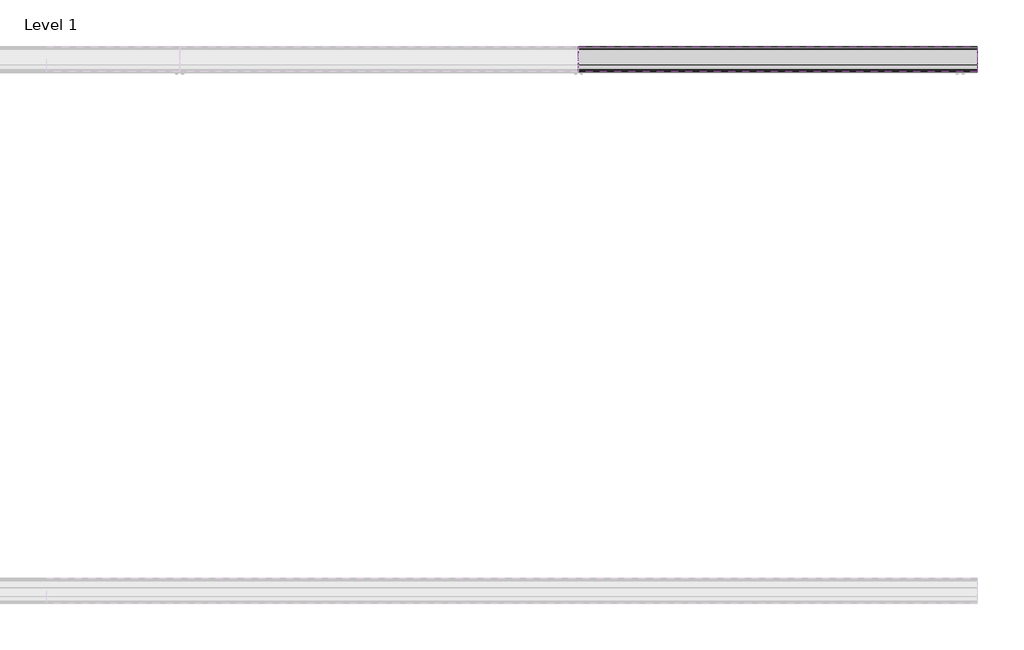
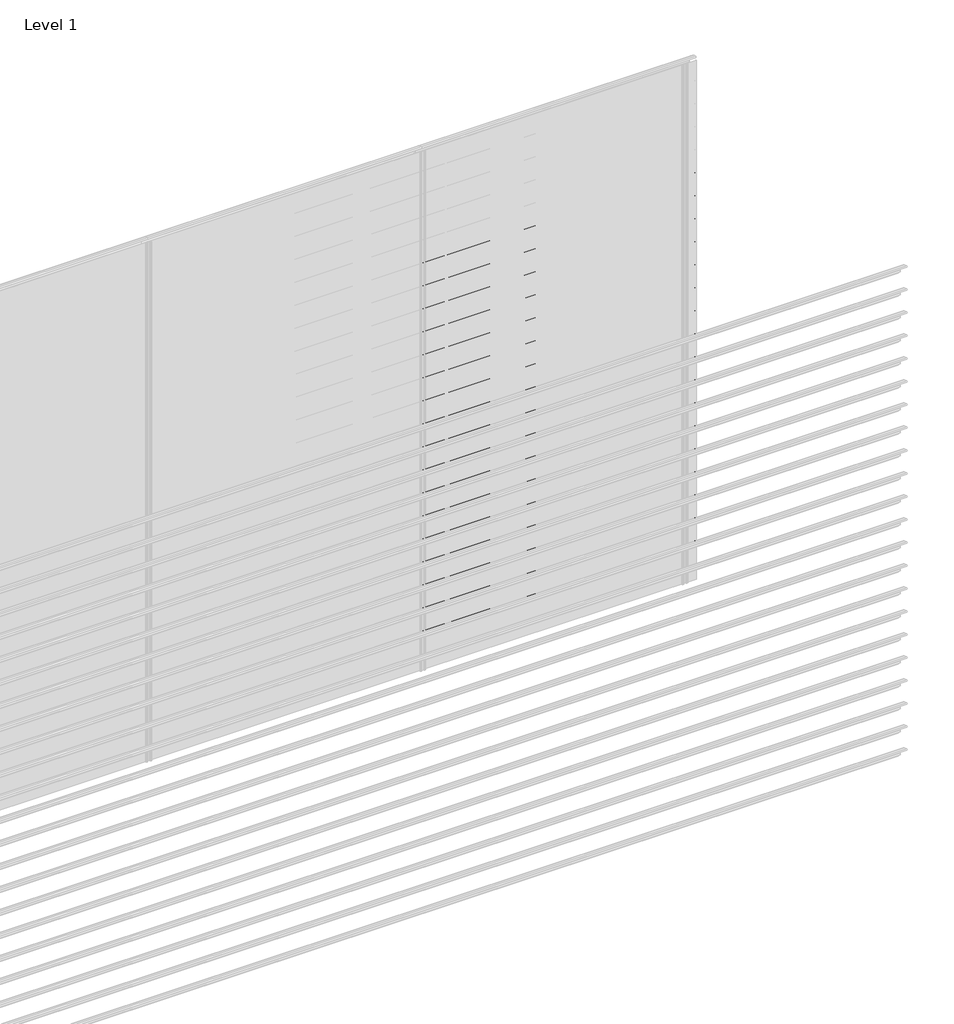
# One storey, part 57 of 57: 17 proxies.
"""IFC4 building model written with IfcOpenShell, lengths in millimetres."""

from ifc_helpers import new_model, si_unit, point, frame, frame_2d, origin, place, context, project, spatial, polyline, circle_curve, trimmed, segment, composite_curve, outline, extrude, element, save

model = new_model("IFC4")

# Units and contexts
model_context = context("Model", 3, world=origin())
ifc_project = project(units=[si_unit("LENGTHUNIT", "METRE", prefix="MILLI")], contexts=[model_context])

# Site, building, storey
site = spatial("IfcSite", under=ifc_project)
building = spatial("IfcBuilding", under=site)
storey = spatial("IfcBuildingStorey", under=building, Name="Level 1", Elevation=0.0)

# Proxies
placement = place(None, origin())
element("IfcBuildingElementProxy", 1, Name="Wall Sweeps", at=placement, inside=storey, context=model_context, shape_type="SweptSolid", body=[
    extrude(outline(composite_curve([segment(trimmed(circle_curve(frame_2d((6.2177474, 2351.4913792)), 4.2177474), [point((10.3014394, 2352.5462976))], [point((6.2177474, 2355.7091266))], False, "CARTESIAN"), True, "CONTINUOUS"), segment(trimmed(circle_curve(frame_2d((-18.7150834, 2253.2536312)), 105.4456002), [point((6.2177474, 2355.7091266))], [point((28.2085702, 2347.6832099))], False, "CARTESIAN"), True, "CONTINUOUS"), segment(trimmed(circle_curve(frame_2d((-61.7199745, 2199.0352476)), 173.7335887), [point((28.2085702, 2347.6832099))], [point((86.9279879, 2288.9637922))], False, "CARTESIAN"), True, "CONTINUOUS"), segment(trimmed(circle_curve(frame_2d((-4.9297178, 2237.1860314)), 105.4456002), [point((86.9279879, 2288.9637922))], [point((96.3750384, 2266.4455765))], False, "CARTESIAN"), True, "CONTINUOUS"), segment(trimmed(circle_curve(frame_2d((92.190263, 2265.3307305)), 4.3307305), [point((96.3750384, 2266.4455765))], [point((90.9230804, 2261.189538))], False, "CARTESIAN"), True, "CONTINUOUS"), segment(polyline([(90.9230804, 2261.189538), (65.2598016, 2285.9722783)]), True, "CONTINUOUS"), segment(trimmed(circle_curve(frame_2d((68.6120426, 2288.2977626)), 4.079877), [point((65.2598016, 2285.9722783))], [point((69.2689403, 2292.3244091))], False, "CARTESIAN"), True, "CONTINUOUS"), segment(trimmed(circle_curve(frame_2d((-14.6665585, 2270.2544323)), 86.7885467), [point((69.2689403, 2292.3244091))], [point((57.6971649, 2318.1683485))], True, "CARTESIAN"), True, "CONTINUOUS"), segment(polyline([(57.6971649, 2318.1683485), (59.2769901, 2320.9046861)]), True, "CONTINUOUS"), segment(trimmed(circle_curve(frame_2d((-61.7199745, 2199.0352476)), 171.7335887), [point((59.2769901, 2320.9046861))], [point((27.2444128, 2345.9289618))], True, "CARTESIAN"), True, "CONTINUOUS"), segment(trimmed(circle_curve(frame_2d((-18.7150834, 2253.2536312)), 103.4456002), [point((27.2444128, 2345.9289618))], [point((10.3014394, 2352.5462976))], True, "CARTESIAN"), True, "CONTINUOUS")], self_intersect=False)), frame((4500.0, 0.0, 0.0), z_axis=(1.0, 0.0, 0.0), x_axis=(0.0, 1.0, 0.0)), (0.0, 0.0, 1.0), 1500.0),
])
element("IfcBuildingElementProxy", 2, Name="Wall Sweeps", at=placement, inside=storey, context=model_context, shape_type="SweptSolid", body=[
    extrude(outline(composite_curve([segment(trimmed(circle_curve(frame_2d((6.2177474, 2218.4913792)), 4.2177474), [point((10.3014394, 2219.5462976))], [point((6.2177474, 2222.7091266))], False, "CARTESIAN"), True, "CONTINUOUS"), segment(trimmed(circle_curve(frame_2d((-18.7150834, 2120.2536312)), 105.4456002), [point((6.2177474, 2222.7091266))], [point((28.2085702, 2214.6832099))], False, "CARTESIAN"), True, "CONTINUOUS"), segment(trimmed(circle_curve(frame_2d((-61.7199745, 2066.0352476)), 173.7335887), [point((28.2085702, 2214.6832099))], [point((86.9279879, 2155.9637922))], False, "CARTESIAN"), True, "CONTINUOUS"), segment(trimmed(circle_curve(frame_2d((-4.9297178, 2104.1860314)), 105.4456002), [point((86.9279879, 2155.9637922))], [point((96.3750384, 2133.4455765))], False, "CARTESIAN"), True, "CONTINUOUS"), segment(trimmed(circle_curve(frame_2d((92.190263, 2132.3307305)), 4.3307305), [point((96.3750384, 2133.4455765))], [point((90.9230804, 2128.189538))], False, "CARTESIAN"), True, "CONTINUOUS"), segment(polyline([(90.9230804, 2128.189538), (65.2598016, 2152.9722783)]), True, "CONTINUOUS"), segment(trimmed(circle_curve(frame_2d((68.6120426, 2155.2977626)), 4.079877), [point((65.2598016, 2152.9722783))], [point((69.2689403, 2159.3244091))], False, "CARTESIAN"), True, "CONTINUOUS"), segment(trimmed(circle_curve(frame_2d((-14.6665585, 2137.2544323)), 86.7885467), [point((69.2689403, 2159.3244091))], [point((57.6971649, 2185.1683485))], True, "CARTESIAN"), True, "CONTINUOUS"), segment(polyline([(57.6971649, 2185.1683485), (59.2769901, 2187.9046861)]), True, "CONTINUOUS"), segment(trimmed(circle_curve(frame_2d((-61.7199745, 2066.0352476)), 171.7335887), [point((59.2769901, 2187.9046861))], [point((27.2444128, 2212.9289618))], True, "CARTESIAN"), True, "CONTINUOUS"), segment(trimmed(circle_curve(frame_2d((-18.7150834, 2120.2536312)), 103.4456002), [point((27.2444128, 2212.9289618))], [point((10.3014394, 2219.5462976))], True, "CARTESIAN"), True, "CONTINUOUS")], self_intersect=False)), frame((4500.0, 0.0, 0.0), z_axis=(1.0, 0.0, 0.0), x_axis=(0.0, 1.0, 0.0)), (0.0, 0.0, 1.0), 1500.0),
])
element("IfcBuildingElementProxy", 3, Name="Wall Sweeps", at=placement, inside=storey, context=model_context, shape_type="SweptSolid", body=[
    extrude(outline(composite_curve([segment(trimmed(circle_curve(frame_2d((6.2177474, 2085.4913792)), 4.2177474), [point((10.3014394, 2086.5462976))], [point((6.2177474, 2089.7091266))], False, "CARTESIAN"), True, "CONTINUOUS"), segment(trimmed(circle_curve(frame_2d((-18.7150834, 1987.2536312)), 105.4456002), [point((6.2177474, 2089.7091266))], [point((28.2085702, 2081.6832099))], False, "CARTESIAN"), True, "CONTINUOUS"), segment(trimmed(circle_curve(frame_2d((-61.7199745, 1933.0352476)), 173.7335887), [point((28.2085702, 2081.6832099))], [point((86.9279879, 2022.9637922))], False, "CARTESIAN"), True, "CONTINUOUS"), segment(trimmed(circle_curve(frame_2d((-4.9297178, 1971.1860314)), 105.4456002), [point((86.9279879, 2022.9637922))], [point((96.3750384, 2000.4455765))], False, "CARTESIAN"), True, "CONTINUOUS"), segment(trimmed(circle_curve(frame_2d((92.190263, 1999.3307305)), 4.3307305), [point((96.3750384, 2000.4455765))], [point((90.9230804, 1995.189538))], False, "CARTESIAN"), True, "CONTINUOUS"), segment(polyline([(90.9230804, 1995.189538), (65.2598016, 2019.9722783)]), True, "CONTINUOUS"), segment(trimmed(circle_curve(frame_2d((68.6120426, 2022.2977626)), 4.079877), [point((65.2598016, 2019.9722783))], [point((69.2689403, 2026.3244091))], False, "CARTESIAN"), True, "CONTINUOUS"), segment(trimmed(circle_curve(frame_2d((-14.6665585, 2004.2544323)), 86.7885467), [point((69.2689403, 2026.3244091))], [point((57.6971649, 2052.1683485))], True, "CARTESIAN"), True, "CONTINUOUS"), segment(polyline([(57.6971649, 2052.1683485), (59.2769901, 2054.9046861)]), True, "CONTINUOUS"), segment(trimmed(circle_curve(frame_2d((-61.7199745, 1933.0352476)), 171.7335887), [point((59.2769901, 2054.9046861))], [point((27.2444128, 2079.9289618))], True, "CARTESIAN"), True, "CONTINUOUS"), segment(trimmed(circle_curve(frame_2d((-18.7150834, 1987.2536312)), 103.4456002), [point((27.2444128, 2079.9289618))], [point((10.3014394, 2086.5462976))], True, "CARTESIAN"), True, "CONTINUOUS")], self_intersect=False)), frame((4500.0, 0.0, 0.0), z_axis=(1.0, 0.0, 0.0), x_axis=(0.0, 1.0, 0.0)), (0.0, 0.0, 1.0), 1500.0),
])
element("IfcBuildingElementProxy", 4, Name="Wall Sweeps", at=placement, inside=storey, context=model_context, shape_type="SweptSolid", body=[
    extrude(outline(composite_curve([segment(trimmed(circle_curve(frame_2d((6.2177474, 1952.4913792)), 4.2177474), [point((10.3014394, 1953.5462976))], [point((6.2177474, 1956.7091266))], False, "CARTESIAN"), True, "CONTINUOUS"), segment(trimmed(circle_curve(frame_2d((-18.7150834, 1854.2536312)), 105.4456002), [point((6.2177474, 1956.7091266))], [point((28.2085702, 1948.6832099))], False, "CARTESIAN"), True, "CONTINUOUS"), segment(trimmed(circle_curve(frame_2d((-61.7199745, 1800.0352476)), 173.7335887), [point((28.2085702, 1948.6832099))], [point((86.9279879, 1889.9637922))], False, "CARTESIAN"), True, "CONTINUOUS"), segment(trimmed(circle_curve(frame_2d((-4.9297178, 1838.1860314)), 105.4456002), [point((86.9279879, 1889.9637922))], [point((96.3750384, 1867.4455765))], False, "CARTESIAN"), True, "CONTINUOUS"), segment(trimmed(circle_curve(frame_2d((92.190263, 1866.3307305)), 4.3307305), [point((96.3750384, 1867.4455765))], [point((90.9230804, 1862.189538))], False, "CARTESIAN"), True, "CONTINUOUS"), segment(polyline([(90.9230804, 1862.189538), (65.2598016, 1886.9722783)]), True, "CONTINUOUS"), segment(trimmed(circle_curve(frame_2d((68.6120426, 1889.2977626)), 4.079877), [point((65.2598016, 1886.9722783))], [point((69.2689403, 1893.3244091))], False, "CARTESIAN"), True, "CONTINUOUS"), segment(trimmed(circle_curve(frame_2d((-14.6665585, 1871.2544323)), 86.7885467), [point((69.2689403, 1893.3244091))], [point((57.6971649, 1919.1683485))], True, "CARTESIAN"), True, "CONTINUOUS"), segment(polyline([(57.6971649, 1919.1683485), (59.2769901, 1921.9046861)]), True, "CONTINUOUS"), segment(trimmed(circle_curve(frame_2d((-61.7199745, 1800.0352476)), 171.7335887), [point((59.2769901, 1921.9046861))], [point((27.2444128, 1946.9289618))], True, "CARTESIAN"), True, "CONTINUOUS"), segment(trimmed(circle_curve(frame_2d((-18.7150834, 1854.2536312)), 103.4456002), [point((27.2444128, 1946.9289618))], [point((10.3014394, 1953.5462976))], True, "CARTESIAN"), True, "CONTINUOUS")], self_intersect=False)), frame((4500.0, 0.0, 0.0), z_axis=(1.0, 0.0, 0.0), x_axis=(0.0, 1.0, 0.0)), (0.0, 0.0, 1.0), 1500.0),
])
element("IfcBuildingElementProxy", 5, Name="Wall Sweeps", at=placement, inside=storey, context=model_context, shape_type="SweptSolid", body=[
    extrude(outline(composite_curve([segment(trimmed(circle_curve(frame_2d((6.2177474, 1819.4913792)), 4.2177474), [point((10.3014394, 1820.5462976))], [point((6.2177474, 1823.7091266))], False, "CARTESIAN"), True, "CONTINUOUS"), segment(trimmed(circle_curve(frame_2d((-18.7150834, 1721.2536312)), 105.4456002), [point((6.2177474, 1823.7091266))], [point((28.2085702, 1815.6832099))], False, "CARTESIAN"), True, "CONTINUOUS"), segment(trimmed(circle_curve(frame_2d((-61.7199745, 1667.0352476)), 173.7335887), [point((28.2085702, 1815.6832099))], [point((86.9279879, 1756.9637922))], False, "CARTESIAN"), True, "CONTINUOUS"), segment(trimmed(circle_curve(frame_2d((-4.9297178, 1705.1860314)), 105.4456002), [point((86.9279879, 1756.9637922))], [point((96.3750384, 1734.4455765))], False, "CARTESIAN"), True, "CONTINUOUS"), segment(trimmed(circle_curve(frame_2d((92.190263, 1733.3307305)), 4.3307305), [point((96.3750384, 1734.4455765))], [point((90.9230804, 1729.189538))], False, "CARTESIAN"), True, "CONTINUOUS"), segment(polyline([(90.9230804, 1729.189538), (65.2598016, 1753.9722783)]), True, "CONTINUOUS"), segment(trimmed(circle_curve(frame_2d((68.6120426, 1756.2977626)), 4.079877), [point((65.2598016, 1753.9722783))], [point((69.2689403, 1760.3244091))], False, "CARTESIAN"), True, "CONTINUOUS"), segment(trimmed(circle_curve(frame_2d((-14.6665585, 1738.2544323)), 86.7885467), [point((69.2689403, 1760.3244091))], [point((57.6971649, 1786.1683485))], True, "CARTESIAN"), True, "CONTINUOUS"), segment(polyline([(57.6971649, 1786.1683485), (59.2769901, 1788.9046861)]), True, "CONTINUOUS"), segment(trimmed(circle_curve(frame_2d((-61.7199745, 1667.0352476)), 171.7335887), [point((59.2769901, 1788.9046861))], [point((27.2444128, 1813.9289618))], True, "CARTESIAN"), True, "CONTINUOUS"), segment(trimmed(circle_curve(frame_2d((-18.7150834, 1721.2536312)), 103.4456002), [point((27.2444128, 1813.9289618))], [point((10.3014394, 1820.5462976))], True, "CARTESIAN"), True, "CONTINUOUS")], self_intersect=False)), frame((4500.0, 0.0, 0.0), z_axis=(1.0, 0.0, 0.0), x_axis=(0.0, 1.0, 0.0)), (0.0, 0.0, 1.0), 1500.0),
])
element("IfcBuildingElementProxy", 6, Name="Wall Sweeps", at=placement, inside=storey, context=model_context, shape_type="SweptSolid", body=[
    extrude(outline(composite_curve([segment(trimmed(circle_curve(frame_2d((6.2177474, 1686.4913792)), 4.2177474), [point((10.3014394, 1687.5462976))], [point((6.2177474, 1690.7091266))], False, "CARTESIAN"), True, "CONTINUOUS"), segment(trimmed(circle_curve(frame_2d((-18.7150834, 1588.2536312)), 105.4456002), [point((6.2177474, 1690.7091266))], [point((28.2085702, 1682.6832099))], False, "CARTESIAN"), True, "CONTINUOUS"), segment(trimmed(circle_curve(frame_2d((-61.7199745, 1534.0352476)), 173.7335887), [point((28.2085702, 1682.6832099))], [point((86.9279879, 1623.9637922))], False, "CARTESIAN"), True, "CONTINUOUS"), segment(trimmed(circle_curve(frame_2d((-4.9297178, 1572.1860314)), 105.4456002), [point((86.9279879, 1623.9637922))], [point((96.3750384, 1601.4455765))], False, "CARTESIAN"), True, "CONTINUOUS"), segment(trimmed(circle_curve(frame_2d((92.190263, 1600.3307305)), 4.3307305), [point((96.3750384, 1601.4455765))], [point((90.9230804, 1596.189538))], False, "CARTESIAN"), True, "CONTINUOUS"), segment(polyline([(90.9230804, 1596.189538), (65.2598016, 1620.9722783)]), True, "CONTINUOUS"), segment(trimmed(circle_curve(frame_2d((68.6120426, 1623.2977626)), 4.079877), [point((65.2598016, 1620.9722783))], [point((69.2689403, 1627.3244091))], False, "CARTESIAN"), True, "CONTINUOUS"), segment(trimmed(circle_curve(frame_2d((-14.6665585, 1605.2544323)), 86.7885467), [point((69.2689403, 1627.3244091))], [point((57.6971649, 1653.1683485))], True, "CARTESIAN"), True, "CONTINUOUS"), segment(polyline([(57.6971649, 1653.1683485), (59.2769901, 1655.9046861)]), True, "CONTINUOUS"), segment(trimmed(circle_curve(frame_2d((-61.7199745, 1534.0352476)), 171.7335887), [point((59.2769901, 1655.9046861))], [point((27.2444128, 1680.9289618))], True, "CARTESIAN"), True, "CONTINUOUS"), segment(trimmed(circle_curve(frame_2d((-18.7150834, 1588.2536312)), 103.4456002), [point((27.2444128, 1680.9289618))], [point((10.3014394, 1687.5462976))], True, "CARTESIAN"), True, "CONTINUOUS")], self_intersect=False)), frame((4500.0, 0.0, 0.0), z_axis=(1.0, 0.0, 0.0), x_axis=(0.0, 1.0, 0.0)), (0.0, 0.0, 1.0), 1500.0),
])
element("IfcBuildingElementProxy", 7, Name="Wall Sweeps", at=placement, inside=storey, context=model_context, shape_type="SweptSolid", body=[
    extrude(outline(composite_curve([segment(trimmed(circle_curve(frame_2d((6.2177474, 1553.4913792)), 4.2177474), [point((10.3014394, 1554.5462976))], [point((6.2177474, 1557.7091266))], False, "CARTESIAN"), True, "CONTINUOUS"), segment(trimmed(circle_curve(frame_2d((-18.7150834, 1455.2536312)), 105.4456002), [point((6.2177474, 1557.7091266))], [point((28.2085702, 1549.6832099))], False, "CARTESIAN"), True, "CONTINUOUS"), segment(trimmed(circle_curve(frame_2d((-61.7199745, 1401.0352476)), 173.7335887), [point((28.2085702, 1549.6832099))], [point((86.9279879, 1490.9637922))], False, "CARTESIAN"), True, "CONTINUOUS"), segment(trimmed(circle_curve(frame_2d((-4.9297178, 1439.1860314)), 105.4456002), [point((86.9279879, 1490.9637922))], [point((96.3750384, 1468.4455765))], False, "CARTESIAN"), True, "CONTINUOUS"), segment(trimmed(circle_curve(frame_2d((92.190263, 1467.3307305)), 4.3307305), [point((96.3750384, 1468.4455765))], [point((90.9230804, 1463.189538))], False, "CARTESIAN"), True, "CONTINUOUS"), segment(polyline([(90.9230804, 1463.189538), (65.2598016, 1487.9722783)]), True, "CONTINUOUS"), segment(trimmed(circle_curve(frame_2d((68.6120426, 1490.2977626)), 4.079877), [point((65.2598016, 1487.9722783))], [point((69.2689403, 1494.3244091))], False, "CARTESIAN"), True, "CONTINUOUS"), segment(trimmed(circle_curve(frame_2d((-14.6665585, 1472.2544323)), 86.7885467), [point((69.2689403, 1494.3244091))], [point((57.6971649, 1520.1683485))], True, "CARTESIAN"), True, "CONTINUOUS"), segment(polyline([(57.6971649, 1520.1683485), (59.2769901, 1522.9046861)]), True, "CONTINUOUS"), segment(trimmed(circle_curve(frame_2d((-61.7199745, 1401.0352476)), 171.7335887), [point((59.2769901, 1522.9046861))], [point((27.2444128, 1547.9289618))], True, "CARTESIAN"), True, "CONTINUOUS"), segment(trimmed(circle_curve(frame_2d((-18.7150834, 1455.2536312)), 103.4456002), [point((27.2444128, 1547.9289618))], [point((10.3014394, 1554.5462976))], True, "CARTESIAN"), True, "CONTINUOUS")], self_intersect=False)), frame((4500.0, 0.0, 0.0), z_axis=(1.0, 0.0, 0.0), x_axis=(0.0, 1.0, 0.0)), (0.0, 0.0, 1.0), 1500.0),
])
element("IfcBuildingElementProxy", 8, Name="Wall Sweeps", at=placement, inside=storey, context=model_context, shape_type="SweptSolid", body=[
    extrude(outline(composite_curve([segment(trimmed(circle_curve(frame_2d((6.2177474, 1420.4913792)), 4.2177474), [point((10.3014394, 1421.5462976))], [point((6.2177474, 1424.7091266))], False, "CARTESIAN"), True, "CONTINUOUS"), segment(trimmed(circle_curve(frame_2d((-18.7150834, 1322.2536312)), 105.4456002), [point((6.2177474, 1424.7091266))], [point((28.2085702, 1416.6832099))], False, "CARTESIAN"), True, "CONTINUOUS"), segment(trimmed(circle_curve(frame_2d((-61.7199745, 1268.0352476)), 173.7335887), [point((28.2085702, 1416.6832099))], [point((86.9279879, 1357.9637922))], False, "CARTESIAN"), True, "CONTINUOUS"), segment(trimmed(circle_curve(frame_2d((-4.9297178, 1306.1860314)), 105.4456002), [point((86.9279879, 1357.9637922))], [point((96.3750384, 1335.4455765))], False, "CARTESIAN"), True, "CONTINUOUS"), segment(trimmed(circle_curve(frame_2d((92.190263, 1334.3307305)), 4.3307305), [point((96.3750384, 1335.4455765))], [point((90.9230804, 1330.189538))], False, "CARTESIAN"), True, "CONTINUOUS"), segment(polyline([(90.9230804, 1330.189538), (65.2598016, 1354.9722783)]), True, "CONTINUOUS"), segment(trimmed(circle_curve(frame_2d((68.6120426, 1357.2977626)), 4.079877), [point((65.2598016, 1354.9722783))], [point((69.2689403, 1361.3244091))], False, "CARTESIAN"), True, "CONTINUOUS"), segment(trimmed(circle_curve(frame_2d((-14.6665585, 1339.2544323)), 86.7885467), [point((69.2689403, 1361.3244091))], [point((57.6971649, 1387.1683485))], True, "CARTESIAN"), True, "CONTINUOUS"), segment(polyline([(57.6971649, 1387.1683485), (59.2769901, 1389.9046861)]), True, "CONTINUOUS"), segment(trimmed(circle_curve(frame_2d((-61.7199745, 1268.0352476)), 171.7335887), [point((59.2769901, 1389.9046861))], [point((27.2444128, 1414.9289618))], True, "CARTESIAN"), True, "CONTINUOUS"), segment(trimmed(circle_curve(frame_2d((-18.7150834, 1322.2536312)), 103.4456002), [point((27.2444128, 1414.9289618))], [point((10.3014394, 1421.5462976))], True, "CARTESIAN"), True, "CONTINUOUS")], self_intersect=False)), frame((4500.0, 0.0, 0.0), z_axis=(1.0, 0.0, 0.0), x_axis=(0.0, 1.0, 0.0)), (0.0, 0.0, 1.0), 1500.0),
])
element("IfcBuildingElementProxy", 9, Name="Wall Sweeps", at=placement, inside=storey, context=model_context, shape_type="SweptSolid", body=[
    extrude(outline(composite_curve([segment(trimmed(circle_curve(frame_2d((6.2177474, 1287.4913792)), 4.2177474), [point((10.3014394, 1288.5462976))], [point((6.2177474, 1291.7091266))], False, "CARTESIAN"), True, "CONTINUOUS"), segment(trimmed(circle_curve(frame_2d((-18.7150834, 1189.2536312)), 105.4456002), [point((6.2177474, 1291.7091266))], [point((28.2085702, 1283.6832099))], False, "CARTESIAN"), True, "CONTINUOUS"), segment(trimmed(circle_curve(frame_2d((-61.7199745, 1135.0352476)), 173.7335887), [point((28.2085702, 1283.6832099))], [point((86.9279879, 1224.9637922))], False, "CARTESIAN"), True, "CONTINUOUS"), segment(trimmed(circle_curve(frame_2d((-4.9297178, 1173.1860314)), 105.4456002), [point((86.9279879, 1224.9637922))], [point((96.3750384, 1202.4455765))], False, "CARTESIAN"), True, "CONTINUOUS"), segment(trimmed(circle_curve(frame_2d((92.190263, 1201.3307305)), 4.3307305), [point((96.3750384, 1202.4455765))], [point((90.9230804, 1197.189538))], False, "CARTESIAN"), True, "CONTINUOUS"), segment(polyline([(90.9230804, 1197.189538), (65.2598016, 1221.9722783)]), True, "CONTINUOUS"), segment(trimmed(circle_curve(frame_2d((68.6120426, 1224.2977626)), 4.079877), [point((65.2598016, 1221.9722783))], [point((69.2689403, 1228.3244091))], False, "CARTESIAN"), True, "CONTINUOUS"), segment(trimmed(circle_curve(frame_2d((-14.6665585, 1206.2544323)), 86.7885467), [point((69.2689403, 1228.3244091))], [point((57.6971649, 1254.1683485))], True, "CARTESIAN"), True, "CONTINUOUS"), segment(polyline([(57.6971649, 1254.1683485), (59.2769901, 1256.9046861)]), True, "CONTINUOUS"), segment(trimmed(circle_curve(frame_2d((-61.7199745, 1135.0352476)), 171.7335887), [point((59.2769901, 1256.9046861))], [point((27.2444128, 1281.9289618))], True, "CARTESIAN"), True, "CONTINUOUS"), segment(trimmed(circle_curve(frame_2d((-18.7150834, 1189.2536312)), 103.4456002), [point((27.2444128, 1281.9289618))], [point((10.3014394, 1288.5462976))], True, "CARTESIAN"), True, "CONTINUOUS")], self_intersect=False)), frame((4500.0, 0.0, 0.0), z_axis=(1.0, 0.0, 0.0), x_axis=(0.0, 1.0, 0.0)), (0.0, 0.0, 1.0), 1500.0),
])
element("IfcBuildingElementProxy", 10, Name="Wall Sweeps", at=placement, inside=storey, context=model_context, shape_type="SweptSolid", body=[
    extrude(outline(composite_curve([segment(trimmed(circle_curve(frame_2d((6.2177474, 1154.4913792)), 4.2177474), [point((10.3014394, 1155.5462976))], [point((6.2177474, 1158.7091266))], False, "CARTESIAN"), True, "CONTINUOUS"), segment(trimmed(circle_curve(frame_2d((-18.7150834, 1056.2536312)), 105.4456002), [point((6.2177474, 1158.7091266))], [point((28.2085702, 1150.6832099))], False, "CARTESIAN"), True, "CONTINUOUS"), segment(trimmed(circle_curve(frame_2d((-61.7199745, 1002.0352476)), 173.7335887), [point((28.2085702, 1150.6832099))], [point((86.9279879, 1091.9637922))], False, "CARTESIAN"), True, "CONTINUOUS"), segment(trimmed(circle_curve(frame_2d((-4.9297178, 1040.1860314)), 105.4456002), [point((86.9279879, 1091.9637922))], [point((96.3750384, 1069.4455765))], False, "CARTESIAN"), True, "CONTINUOUS"), segment(trimmed(circle_curve(frame_2d((92.190263, 1068.3307305)), 4.3307305), [point((96.3750384, 1069.4455765))], [point((90.9230804, 1064.189538))], False, "CARTESIAN"), True, "CONTINUOUS"), segment(polyline([(90.9230804, 1064.189538), (65.2598016, 1088.9722783)]), True, "CONTINUOUS"), segment(trimmed(circle_curve(frame_2d((68.6120426, 1091.2977626)), 4.079877), [point((65.2598016, 1088.9722783))], [point((69.2689403, 1095.3244091))], False, "CARTESIAN"), True, "CONTINUOUS"), segment(trimmed(circle_curve(frame_2d((-14.6665585, 1073.2544323)), 86.7885467), [point((69.2689403, 1095.3244091))], [point((57.6971649, 1121.1683485))], True, "CARTESIAN"), True, "CONTINUOUS"), segment(polyline([(57.6971649, 1121.1683485), (59.2769901, 1123.9046861)]), True, "CONTINUOUS"), segment(trimmed(circle_curve(frame_2d((-61.7199745, 1002.0352476)), 171.7335887), [point((59.2769901, 1123.9046861))], [point((27.2444128, 1148.9289618))], True, "CARTESIAN"), True, "CONTINUOUS"), segment(trimmed(circle_curve(frame_2d((-18.7150834, 1056.2536312)), 103.4456002), [point((27.2444128, 1148.9289618))], [point((10.3014394, 1155.5462976))], True, "CARTESIAN"), True, "CONTINUOUS")], self_intersect=False)), frame((4500.0, 0.0, 0.0), z_axis=(1.0, 0.0, 0.0), x_axis=(0.0, 1.0, 0.0)), (0.0, 0.0, 1.0), 1500.0),
])
element("IfcBuildingElementProxy", 11, Name="Wall Sweeps", at=placement, inside=storey, context=model_context, shape_type="SweptSolid", body=[
    extrude(outline(composite_curve([segment(trimmed(circle_curve(frame_2d((6.2177474, 1021.4913792)), 4.2177474), [point((10.3014394, 1022.5462976))], [point((6.2177474, 1025.7091266))], False, "CARTESIAN"), True, "CONTINUOUS"), segment(trimmed(circle_curve(frame_2d((-18.7150834, 923.2536312)), 105.4456002), [point((6.2177474, 1025.7091266))], [point((28.2085702, 1017.6832099))], False, "CARTESIAN"), True, "CONTINUOUS"), segment(trimmed(circle_curve(frame_2d((-61.7199745, 869.0352476)), 173.7335887), [point((28.2085702, 1017.6832099))], [point((86.9279879, 958.9637922))], False, "CARTESIAN"), True, "CONTINUOUS"), segment(trimmed(circle_curve(frame_2d((-4.9297178, 907.1860314)), 105.4456002), [point((86.9279879, 958.9637922))], [point((96.3750384, 936.4455765))], False, "CARTESIAN"), True, "CONTINUOUS"), segment(trimmed(circle_curve(frame_2d((92.190263, 935.3307305)), 4.3307305), [point((96.3750384, 936.4455765))], [point((90.9230804, 931.189538))], False, "CARTESIAN"), True, "CONTINUOUS"), segment(polyline([(90.9230804, 931.189538), (65.2598016, 955.9722783)]), True, "CONTINUOUS"), segment(trimmed(circle_curve(frame_2d((68.6120426, 958.2977626)), 4.079877), [point((65.2598016, 955.9722783))], [point((69.2689403, 962.3244091))], False, "CARTESIAN"), True, "CONTINUOUS"), segment(trimmed(circle_curve(frame_2d((-14.6665585, 940.2544323)), 86.7885467), [point((69.2689403, 962.3244091))], [point((57.6971649, 988.1683485))], True, "CARTESIAN"), True, "CONTINUOUS"), segment(polyline([(57.6971649, 988.1683485), (59.2769901, 990.9046861)]), True, "CONTINUOUS"), segment(trimmed(circle_curve(frame_2d((-61.7199745, 869.0352476)), 171.7335887), [point((59.2769901, 990.9046861))], [point((27.2444128, 1015.9289618))], True, "CARTESIAN"), True, "CONTINUOUS"), segment(trimmed(circle_curve(frame_2d((-18.7150834, 923.2536312)), 103.4456002), [point((27.2444128, 1015.9289618))], [point((10.3014394, 1022.5462976))], True, "CARTESIAN"), True, "CONTINUOUS")], self_intersect=False)), frame((4500.0, 0.0, 0.0), z_axis=(1.0, 0.0, 0.0), x_axis=(0.0, 1.0, 0.0)), (0.0, 0.0, 1.0), 1500.0),
])
element("IfcBuildingElementProxy", 12, Name="Wall Sweeps", at=placement, inside=storey, context=model_context, shape_type="SweptSolid", body=[
    extrude(outline(composite_curve([segment(trimmed(circle_curve(frame_2d((6.2177474, 888.4913792)), 4.2177474), [point((10.3014394, 889.5462976))], [point((6.2177474, 892.7091266))], False, "CARTESIAN"), True, "CONTINUOUS"), segment(trimmed(circle_curve(frame_2d((-18.7150834, 790.2536312)), 105.4456002), [point((6.2177474, 892.7091266))], [point((28.2085702, 884.6832099))], False, "CARTESIAN"), True, "CONTINUOUS"), segment(trimmed(circle_curve(frame_2d((-61.7199745, 736.0352476)), 173.7335887), [point((28.2085702, 884.6832099))], [point((86.9279879, 825.9637922))], False, "CARTESIAN"), True, "CONTINUOUS"), segment(trimmed(circle_curve(frame_2d((-4.9297178, 774.1860314)), 105.4456002), [point((86.9279879, 825.9637922))], [point((96.3750384, 803.4455765))], False, "CARTESIAN"), True, "CONTINUOUS"), segment(trimmed(circle_curve(frame_2d((92.190263, 802.3307305)), 4.3307305), [point((96.3750384, 803.4455765))], [point((90.9230804, 798.189538))], False, "CARTESIAN"), True, "CONTINUOUS"), segment(polyline([(90.9230804, 798.189538), (65.2598016, 822.9722783)]), True, "CONTINUOUS"), segment(trimmed(circle_curve(frame_2d((68.6120426, 825.2977626)), 4.079877), [point((65.2598016, 822.9722783))], [point((69.2689403, 829.3244091))], False, "CARTESIAN"), True, "CONTINUOUS"), segment(trimmed(circle_curve(frame_2d((-14.6665585, 807.2544323)), 86.7885467), [point((69.2689403, 829.3244091))], [point((57.6971649, 855.1683485))], True, "CARTESIAN"), True, "CONTINUOUS"), segment(polyline([(57.6971649, 855.1683485), (59.2769901, 857.9046861)]), True, "CONTINUOUS"), segment(trimmed(circle_curve(frame_2d((-61.7199745, 736.0352476)), 171.7335887), [point((59.2769901, 857.9046861))], [point((27.2444128, 882.9289618))], True, "CARTESIAN"), True, "CONTINUOUS"), segment(trimmed(circle_curve(frame_2d((-18.7150834, 790.2536312)), 103.4456002), [point((27.2444128, 882.9289618))], [point((10.3014394, 889.5462976))], True, "CARTESIAN"), True, "CONTINUOUS")], self_intersect=False)), frame((4500.0, 0.0, 0.0), z_axis=(1.0, 0.0, 0.0), x_axis=(0.0, 1.0, 0.0)), (0.0, 0.0, 1.0), 1500.0),
])
element("IfcBuildingElementProxy", 13, Name="Wall Sweeps", at=placement, inside=storey, context=model_context, shape_type="SweptSolid", body=[
    extrude(outline(composite_curve([segment(trimmed(circle_curve(frame_2d((6.2177474, 755.4913792)), 4.2177474), [point((10.3014394, 756.5462976))], [point((6.2177474, 759.7091266))], False, "CARTESIAN"), True, "CONTINUOUS"), segment(trimmed(circle_curve(frame_2d((-18.7150834, 657.2536312)), 105.4456002), [point((6.2177474, 759.7091266))], [point((28.2085702, 751.6832099))], False, "CARTESIAN"), True, "CONTINUOUS"), segment(trimmed(circle_curve(frame_2d((-61.7199745, 603.0352476)), 173.7335887), [point((28.2085702, 751.6832099))], [point((86.9279879, 692.9637922))], False, "CARTESIAN"), True, "CONTINUOUS"), segment(trimmed(circle_curve(frame_2d((-4.9297178, 641.1860314)), 105.4456002), [point((86.9279879, 692.9637922))], [point((96.3750384, 670.4455765))], False, "CARTESIAN"), True, "CONTINUOUS"), segment(trimmed(circle_curve(frame_2d((92.190263, 669.3307305)), 4.3307305), [point((96.3750384, 670.4455765))], [point((90.9230804, 665.189538))], False, "CARTESIAN"), True, "CONTINUOUS"), segment(polyline([(90.9230804, 665.189538), (65.2598016, 689.9722783)]), True, "CONTINUOUS"), segment(trimmed(circle_curve(frame_2d((68.6120426, 692.2977626)), 4.079877), [point((65.2598016, 689.9722783))], [point((69.2689403, 696.3244091))], False, "CARTESIAN"), True, "CONTINUOUS"), segment(trimmed(circle_curve(frame_2d((-14.6665585, 674.2544323)), 86.7885467), [point((69.2689403, 696.3244091))], [point((57.6971649, 722.1683485))], True, "CARTESIAN"), True, "CONTINUOUS"), segment(polyline([(57.6971649, 722.1683485), (59.2769901, 724.9046861)]), True, "CONTINUOUS"), segment(trimmed(circle_curve(frame_2d((-61.7199745, 603.0352476)), 171.7335887), [point((59.2769901, 724.9046861))], [point((27.2444128, 749.9289618))], True, "CARTESIAN"), True, "CONTINUOUS"), segment(trimmed(circle_curve(frame_2d((-18.7150834, 657.2536312)), 103.4456002), [point((27.2444128, 749.9289618))], [point((10.3014394, 756.5462976))], True, "CARTESIAN"), True, "CONTINUOUS")], self_intersect=False)), frame((4500.0, 0.0, 0.0), z_axis=(1.0, 0.0, 0.0), x_axis=(0.0, 1.0, 0.0)), (0.0, 0.0, 1.0), 1500.0),
])
element("IfcBuildingElementProxy", 14, Name="Wall Sweeps", at=placement, inside=storey, context=model_context, shape_type="SweptSolid", body=[
    extrude(outline(composite_curve([segment(trimmed(circle_curve(frame_2d((6.2177474, 622.4913792)), 4.2177474), [point((10.3014394, 623.5462976))], [point((6.2177474, 626.7091266))], False, "CARTESIAN"), True, "CONTINUOUS"), segment(trimmed(circle_curve(frame_2d((-18.7150834, 524.2536312)), 105.4456002), [point((6.2177474, 626.7091266))], [point((28.2085702, 618.6832099))], False, "CARTESIAN"), True, "CONTINUOUS"), segment(trimmed(circle_curve(frame_2d((-61.7199745, 470.0352476)), 173.7335887), [point((28.2085702, 618.6832099))], [point((86.9279879, 559.9637922))], False, "CARTESIAN"), True, "CONTINUOUS"), segment(trimmed(circle_curve(frame_2d((-4.9297178, 508.1860314)), 105.4456002), [point((86.9279879, 559.9637922))], [point((96.3750384, 537.4455765))], False, "CARTESIAN"), True, "CONTINUOUS"), segment(trimmed(circle_curve(frame_2d((92.190263, 536.3307305)), 4.3307305), [point((96.3750384, 537.4455765))], [point((90.9230804, 532.189538))], False, "CARTESIAN"), True, "CONTINUOUS"), segment(polyline([(90.9230804, 532.189538), (65.2598016, 556.9722783)]), True, "CONTINUOUS"), segment(trimmed(circle_curve(frame_2d((68.6120426, 559.2977626)), 4.079877), [point((65.2598016, 556.9722783))], [point((69.2689403, 563.3244091))], False, "CARTESIAN"), True, "CONTINUOUS"), segment(trimmed(circle_curve(frame_2d((-14.6665585, 541.2544323)), 86.7885467), [point((69.2689403, 563.3244091))], [point((57.6971649, 589.1683485))], True, "CARTESIAN"), True, "CONTINUOUS"), segment(polyline([(57.6971649, 589.1683485), (59.2769901, 591.9046861)]), True, "CONTINUOUS"), segment(trimmed(circle_curve(frame_2d((-61.7199745, 470.0352476)), 171.7335887), [point((59.2769901, 591.9046861))], [point((27.2444128, 616.9289618))], True, "CARTESIAN"), True, "CONTINUOUS"), segment(trimmed(circle_curve(frame_2d((-18.7150834, 524.2536312)), 103.4456002), [point((27.2444128, 616.9289618))], [point((10.3014394, 623.5462976))], True, "CARTESIAN"), True, "CONTINUOUS")], self_intersect=False)), frame((4500.0, 0.0, 0.0), z_axis=(1.0, 0.0, 0.0), x_axis=(0.0, 1.0, 0.0)), (0.0, 0.0, 1.0), 1500.0),
])
element("IfcBuildingElementProxy", 15, Name="Wall Sweeps", at=placement, inside=storey, context=model_context, shape_type="SweptSolid", body=[
    extrude(outline(composite_curve([segment(trimmed(circle_curve(frame_2d((6.2177474, 489.4913792)), 4.2177474), [point((10.3014394, 490.5462976))], [point((6.2177474, 493.7091266))], False, "CARTESIAN"), True, "CONTINUOUS"), segment(trimmed(circle_curve(frame_2d((-18.7150834, 391.2536312)), 105.4456002), [point((6.2177474, 493.7091266))], [point((28.2085702, 485.6832099))], False, "CARTESIAN"), True, "CONTINUOUS"), segment(trimmed(circle_curve(frame_2d((-61.7199745, 337.0352476)), 173.7335887), [point((28.2085702, 485.6832099))], [point((86.9279879, 426.9637922))], False, "CARTESIAN"), True, "CONTINUOUS"), segment(trimmed(circle_curve(frame_2d((-4.9297178, 375.1860314)), 105.4456002), [point((86.9279879, 426.9637922))], [point((96.3750384, 404.4455765))], False, "CARTESIAN"), True, "CONTINUOUS"), segment(trimmed(circle_curve(frame_2d((92.190263, 403.3307305)), 4.3307305), [point((96.3750384, 404.4455765))], [point((90.9230804, 399.189538))], False, "CARTESIAN"), True, "CONTINUOUS"), segment(polyline([(90.9230804, 399.189538), (65.2598016, 423.9722783)]), True, "CONTINUOUS"), segment(trimmed(circle_curve(frame_2d((68.6120426, 426.2977626)), 4.079877), [point((65.2598016, 423.9722783))], [point((69.2689403, 430.3244091))], False, "CARTESIAN"), True, "CONTINUOUS"), segment(trimmed(circle_curve(frame_2d((-14.6665585, 408.2544323)), 86.7885467), [point((69.2689403, 430.3244091))], [point((57.6971649, 456.1683485))], True, "CARTESIAN"), True, "CONTINUOUS"), segment(polyline([(57.6971649, 456.1683485), (59.2769901, 458.9046861)]), True, "CONTINUOUS"), segment(trimmed(circle_curve(frame_2d((-61.7199745, 337.0352476)), 171.7335887), [point((59.2769901, 458.9046861))], [point((27.2444128, 483.9289618))], True, "CARTESIAN"), True, "CONTINUOUS"), segment(trimmed(circle_curve(frame_2d((-18.7150834, 391.2536312)), 103.4456002), [point((27.2444128, 483.9289618))], [point((10.3014394, 490.5462976))], True, "CARTESIAN"), True, "CONTINUOUS")], self_intersect=False)), frame((4500.0, 0.0, 0.0), z_axis=(1.0, 0.0, 0.0), x_axis=(0.0, 1.0, 0.0)), (0.0, 0.0, 1.0), 1500.0),
])
element("IfcBuildingElementProxy", 16, Name="Wall Sweeps", at=placement, inside=storey, context=model_context, shape_type="SweptSolid", body=[
    extrude(outline(composite_curve([segment(trimmed(circle_curve(frame_2d((6.2177474, 356.4913792)), 4.2177474), [point((10.3014394, 357.5462976))], [point((6.2177474, 360.7091266))], False, "CARTESIAN"), True, "CONTINUOUS"), segment(trimmed(circle_curve(frame_2d((-18.7150834, 258.2536312)), 105.4456002), [point((6.2177474, 360.7091266))], [point((28.2085702, 352.6832099))], False, "CARTESIAN"), True, "CONTINUOUS"), segment(trimmed(circle_curve(frame_2d((-61.7199745, 204.0352476)), 173.7335887), [point((28.2085702, 352.6832099))], [point((86.9279879, 293.9637922))], False, "CARTESIAN"), True, "CONTINUOUS"), segment(trimmed(circle_curve(frame_2d((-4.9297178, 242.1860314)), 105.4456002), [point((86.9279879, 293.9637922))], [point((96.3750384, 271.4455765))], False, "CARTESIAN"), True, "CONTINUOUS"), segment(trimmed(circle_curve(frame_2d((92.190263, 270.3307305)), 4.3307305), [point((96.3750384, 271.4455765))], [point((90.9230804, 266.189538))], False, "CARTESIAN"), True, "CONTINUOUS"), segment(polyline([(90.9230804, 266.189538), (65.2598016, 290.9722783)]), True, "CONTINUOUS"), segment(trimmed(circle_curve(frame_2d((68.6120426, 293.2977626)), 4.079877), [point((65.2598016, 290.9722783))], [point((69.2689403, 297.3244091))], False, "CARTESIAN"), True, "CONTINUOUS"), segment(trimmed(circle_curve(frame_2d((-14.6665585, 275.2544323)), 86.7885467), [point((69.2689403, 297.3244091))], [point((57.6971649, 323.1683485))], True, "CARTESIAN"), True, "CONTINUOUS"), segment(polyline([(57.6971649, 323.1683485), (59.2769901, 325.9046861)]), True, "CONTINUOUS"), segment(trimmed(circle_curve(frame_2d((-61.7199745, 204.0352476)), 171.7335887), [point((59.2769901, 325.9046861))], [point((27.2444128, 350.9289618))], True, "CARTESIAN"), True, "CONTINUOUS"), segment(trimmed(circle_curve(frame_2d((-18.7150834, 258.2536312)), 103.4456002), [point((27.2444128, 350.9289618))], [point((10.3014394, 357.5462976))], True, "CARTESIAN"), True, "CONTINUOUS")], self_intersect=False)), frame((4500.0, 0.0, 0.0), z_axis=(1.0, 0.0, 0.0), x_axis=(0.0, 1.0, 0.0)), (0.0, 0.0, 1.0), 1500.0),
])
element("IfcBuildingElementProxy", 17, Name="Wall Sweeps", at=placement, inside=storey, context=model_context, shape_type="SweptSolid", body=[
    extrude(outline(composite_curve([segment(trimmed(circle_curve(frame_2d((6.2177474, 223.4913792)), 4.2177474), [point((10.3014394, 224.5462976))], [point((6.2177474, 227.7091266))], False, "CARTESIAN"), True, "CONTINUOUS"), segment(trimmed(circle_curve(frame_2d((-18.7150834, 125.2536312)), 105.4456002), [point((6.2177474, 227.7091266))], [point((28.2085702, 219.6832099))], False, "CARTESIAN"), True, "CONTINUOUS"), segment(trimmed(circle_curve(frame_2d((-61.7199745, 71.0352476)), 173.7335887), [point((28.2085702, 219.6832099))], [point((86.9279879, 160.9637922))], False, "CARTESIAN"), True, "CONTINUOUS"), segment(trimmed(circle_curve(frame_2d((-4.9297178, 109.1860314)), 105.4456002), [point((86.9279879, 160.9637922))], [point((96.3750384, 138.4455765))], False, "CARTESIAN"), True, "CONTINUOUS"), segment(trimmed(circle_curve(frame_2d((92.190263, 137.3307305)), 4.3307305), [point((96.3750384, 138.4455765))], [point((90.9230804, 133.189538))], False, "CARTESIAN"), True, "CONTINUOUS"), segment(polyline([(90.9230804, 133.189538), (65.2598016, 157.9722783)]), True, "CONTINUOUS"), segment(trimmed(circle_curve(frame_2d((68.6120426, 160.2977626)), 4.079877), [point((65.2598016, 157.9722783))], [point((69.2689403, 164.3244091))], False, "CARTESIAN"), True, "CONTINUOUS"), segment(trimmed(circle_curve(frame_2d((-14.6665585, 142.2544323)), 86.7885467), [point((69.2689403, 164.3244091))], [point((57.6971649, 190.1683485))], True, "CARTESIAN"), True, "CONTINUOUS"), segment(polyline([(57.6971649, 190.1683485), (59.2769901, 192.9046861)]), True, "CONTINUOUS"), segment(trimmed(circle_curve(frame_2d((-61.7199745, 71.0352476)), 171.7335887), [point((59.2769901, 192.9046861))], [point((27.2444128, 217.9289618))], True, "CARTESIAN"), True, "CONTINUOUS"), segment(trimmed(circle_curve(frame_2d((-18.7150834, 125.2536312)), 103.4456002), [point((27.2444128, 217.9289618))], [point((10.3014394, 224.5462976))], True, "CARTESIAN"), True, "CONTINUOUS")], self_intersect=False)), frame((4500.0, 0.0, 0.0), z_axis=(1.0, 0.0, 0.0), x_axis=(0.0, 1.0, 0.0)), (0.0, 0.0, 1.0), 1500.0),
])

save(model, "model.ifc")
